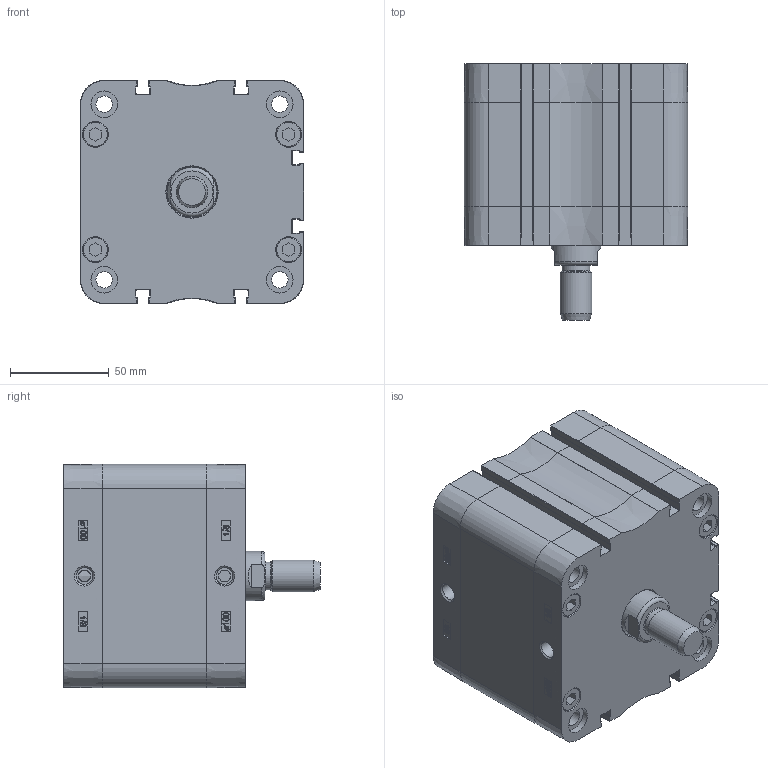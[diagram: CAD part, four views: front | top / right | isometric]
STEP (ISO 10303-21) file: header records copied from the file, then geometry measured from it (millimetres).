
FILE_DESCRIPTION((''),'2;1');
FILE_NAME('T:\Archivio Inventor\- CATALOGHI 2012\SERIE P - NUOVA\PDM\PDM100\PDM100.---.GS.M\PDM100.025.GS.M.stp','2013-02-05T11:38:37',('Administrator'),(''),'Autodesk Inventor 2012','Autodesk Inventor 2012','');
FILE_SCHEMA(('CONFIG_CONTROL_DESIGN'));
Length unit declared in the file: millimetre
Products named in the file (1): PDM100.025.GS.M
Bounding box: 113.3 x 130 x 113.3 mm (x, y, z)
Volume: 580370.5 mm3; surface area: 161496.5 mm2
Topology: 1 solids, 5 shells, 908 faces, 2136 edges, 1312 vertices
Faces by surface type: plane 371, bspline 226, cylinder 148, cone 81, torus 58, sphere 24
Full cylindrical faces by diameter (mm): 6 x2, 8.3 x4, 8.376 x8, 8.566 x2, 9.976 x4, 12 x1, 12.7 x8, 13.1 x8, 13.5 x8, 14 x1, 16 x1, 25 x1, 25.5 x1, 100 x1, 103.5 x1, 103.7 x1
Entity records: 29561 total; most frequent: CARTESIAN_POINT 9693, ORIENTED_EDGE 4030, DIRECTION 3400, EDGE_CURVE 2015, VERTEX_POINT 1291, AXIS2_PLACEMENT_3D 1208, EDGE_LOOP 1088, VECTOR 984
